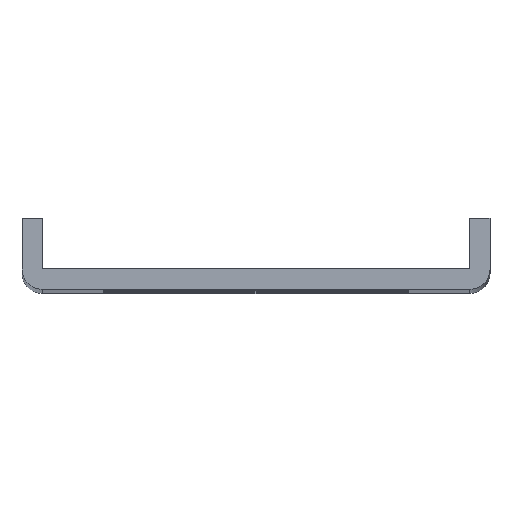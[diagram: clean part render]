
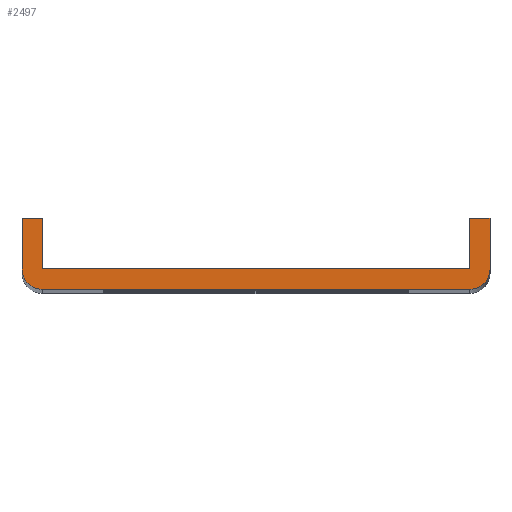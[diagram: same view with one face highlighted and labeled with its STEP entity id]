
A CAD part, top view. The second image highlights one B-rep face of the part: STEP entity #2497.
In plain terms, the highlighted planar face has unit normal (0, 0, 1).
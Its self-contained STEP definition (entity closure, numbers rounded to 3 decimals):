
#120 = CARTESIAN_POINT ( 'NONE',  ( -23., 2., 210. ) ) ;
#211 = LINE ( 'NONE', #397, #702 ) ;
#237 = AXIS2_PLACEMENT_3D ( 'NONE', #1685, #1498, #686 ) ;
#332 = LINE ( 'NONE', #1578, #1306 ) ;
#374 = EDGE_CURVE ( 'NONE', #808, #2143, #2519, .T. ) ;
#382 = VERTEX_POINT ( 'NONE', #1942 ) ;
#385 = EDGE_CURVE ( 'NONE', #1444, #2494, #492, .T. ) ;
#393 = ORIENTED_EDGE ( 'NONE', *, *, #1930, .T. ) ;
#397 = CARTESIAN_POINT ( 'NONE',  ( -23., 7., 210. ) ) ;
#408 = AXIS2_PLACEMENT_3D ( 'NONE', #2542, #704, #2141 ) ;
#413 = CIRCLE ( 'NONE', #237, 2. ) ;
#426 = EDGE_CURVE ( 'NONE', #1105, #443, #1159, .T. ) ;
#443 = VERTEX_POINT ( 'NONE', #1347 ) ;
#450 = CARTESIAN_POINT ( 'NONE',  ( 23., 7., 210. ) ) ;
#492 = CIRCLE ( 'NONE', #408, 2. ) ;
#505 = EDGE_LOOP ( 'NONE', ( #393, #1734, #1073, #1900, #2647, #2131, #1638, #2299, #2262, #1008 ) ) ;
#648 = EDGE_CURVE ( 'NONE', #1664, #382, #413, .T. ) ;
#651 = DIRECTION ( 'NONE',  ( 1., 0., 0. ) ) ;
#677 = CARTESIAN_POINT ( 'NONE',  ( -23., 0., 210. ) ) ;
#678 = CARTESIAN_POINT ( 'NONE',  ( 23., 7., 210. ) ) ;
#685 = CARTESIAN_POINT ( 'NONE',  ( -21., 7., 210. ) ) ;
#686 = DIRECTION ( 'NONE',  ( 1., 0., 0. ) ) ;
#702 = VECTOR ( 'NONE', #2635, 1000. ) ;
#704 = DIRECTION ( 'NONE',  ( 0., 0., 1. ) ) ;
#777 = DIRECTION ( 'NONE',  ( 0., 1., 0. ) ) ;
#808 = VERTEX_POINT ( 'NONE', #1331 ) ;
#810 = LINE ( 'NONE', #2263, #1915 ) ;
#929 = EDGE_CURVE ( 'NONE', #1316, #2092, #211, .T. ) ;
#940 = LINE ( 'NONE', #2578, #1143 ) ;
#1008 = ORIENTED_EDGE ( 'NONE', *, *, #648, .T. ) ;
#1073 = ORIENTED_EDGE ( 'NONE', *, *, #1797, .T. ) ;
#1091 = VECTOR ( 'NONE', #1728, 1000. ) ;
#1105 = VERTEX_POINT ( 'NONE', #2523 ) ;
#1122 = DIRECTION ( 'NONE',  ( 0., 0., 1. ) ) ;
#1143 = VECTOR ( 'NONE', #2176, 1000. ) ;
#1156 = LINE ( 'NONE', #1343, #2425 ) ;
#1159 = LINE ( 'NONE', #120, #2544 ) ;
#1241 = CARTESIAN_POINT ( 'NONE',  ( 21., 0., 210. ) ) ;
#1292 = PLANE ( 'NONE',  #1705 ) ;
#1306 = VECTOR ( 'NONE', #1753, 1000. ) ;
#1316 = VERTEX_POINT ( 'NONE', #2027 ) ;
#1331 = CARTESIAN_POINT ( 'NONE',  ( 21., 7., 210. ) ) ;
#1343 = CARTESIAN_POINT ( 'NONE',  ( -21., 0., 210. ) ) ;
#1347 = CARTESIAN_POINT ( 'NONE',  ( 21., 2., 210. ) ) ;
#1414 = LINE ( 'NONE', #1241, #2124 ) ;
#1444 = VERTEX_POINT ( 'NONE', #2308 ) ;
#1498 = DIRECTION ( 'NONE',  ( 0., 0., 1. ) ) ;
#1512 = CARTESIAN_POINT ( 'NONE',  ( 23., 2., 210. ) ) ;
#1578 = CARTESIAN_POINT ( 'NONE',  ( 23., 0., 210. ) ) ;
#1638 = ORIENTED_EDGE ( 'NONE', *, *, #1700, .T. ) ;
#1664 = VERTEX_POINT ( 'NONE', #1983 ) ;
#1685 = CARTESIAN_POINT ( 'NONE',  ( -21., 2., 210. ) ) ;
#1700 = EDGE_CURVE ( 'NONE', #1105, #2092, #1156, .T. ) ;
#1705 = AXIS2_PLACEMENT_3D ( 'NONE', #677, #1122, #651 ) ;
#1728 = DIRECTION ( 'NONE',  ( 1., 0., 0. ) ) ;
#1734 = ORIENTED_EDGE ( 'NONE', *, *, #385, .T. ) ;
#1753 = DIRECTION ( 'NONE',  ( 0., 1., 0. ) ) ;
#1755 = DIRECTION ( 'NONE',  ( 1., 0., 0. ) ) ;
#1797 = EDGE_CURVE ( 'NONE', #2494, #2143, #332, .T. ) ;
#1900 = ORIENTED_EDGE ( 'NONE', *, *, #374, .F. ) ;
#1915 = VECTOR ( 'NONE', #2620, 1000. ) ;
#1930 = EDGE_CURVE ( 'NONE', #382, #1444, #810, .T. ) ;
#1942 = CARTESIAN_POINT ( 'NONE',  ( -21., 0., 210. ) ) ;
#1983 = CARTESIAN_POINT ( 'NONE',  ( -23., 2., 210. ) ) ;
#2027 = CARTESIAN_POINT ( 'NONE',  ( -23., 7., 210. ) ) ;
#2092 = VERTEX_POINT ( 'NONE', #685 ) ;
#2124 = VECTOR ( 'NONE', #777, 1000. ) ;
#2131 = ORIENTED_EDGE ( 'NONE', *, *, #426, .F. ) ;
#2141 = DIRECTION ( 'NONE',  ( 1., 0., 0. ) ) ;
#2143 = VERTEX_POINT ( 'NONE', #450 ) ;
#2176 = DIRECTION ( 'NONE',  ( 0., 1., 0. ) ) ;
#2203 = EDGE_CURVE ( 'NONE', #1664, #1316, #940, .T. ) ;
#2262 = ORIENTED_EDGE ( 'NONE', *, *, #2203, .F. ) ;
#2263 = CARTESIAN_POINT ( 'NONE',  ( -23., 0., 210. ) ) ;
#2299 = ORIENTED_EDGE ( 'NONE', *, *, #929, .F. ) ;
#2306 = FACE_OUTER_BOUND ( 'NONE', #505, .T. ) ;
#2308 = CARTESIAN_POINT ( 'NONE',  ( 21., 0., 210. ) ) ;
#2341 = DIRECTION ( 'NONE',  ( 0., 1., 0. ) ) ;
#2364 = EDGE_CURVE ( 'NONE', #443, #808, #1414, .T. ) ;
#2425 = VECTOR ( 'NONE', #2341, 1000. ) ;
#2494 = VERTEX_POINT ( 'NONE', #1512 ) ;
#2497 = ADVANCED_FACE ( 'NONE', ( #2306 ), #1292, .T. ) ;
#2519 = LINE ( 'NONE', #678, #1091 ) ;
#2523 = CARTESIAN_POINT ( 'NONE',  ( -21., 2., 210. ) ) ;
#2542 = CARTESIAN_POINT ( 'NONE',  ( 21., 2., 210. ) ) ;
#2544 = VECTOR ( 'NONE', #1755, 1000. ) ;
#2578 = CARTESIAN_POINT ( 'NONE',  ( -23., 0., 210. ) ) ;
#2620 = DIRECTION ( 'NONE',  ( 1., 0., 0. ) ) ;
#2635 = DIRECTION ( 'NONE',  ( 1., 0., 0. ) ) ;
#2647 = ORIENTED_EDGE ( 'NONE', *, *, #2364, .F. ) ;
